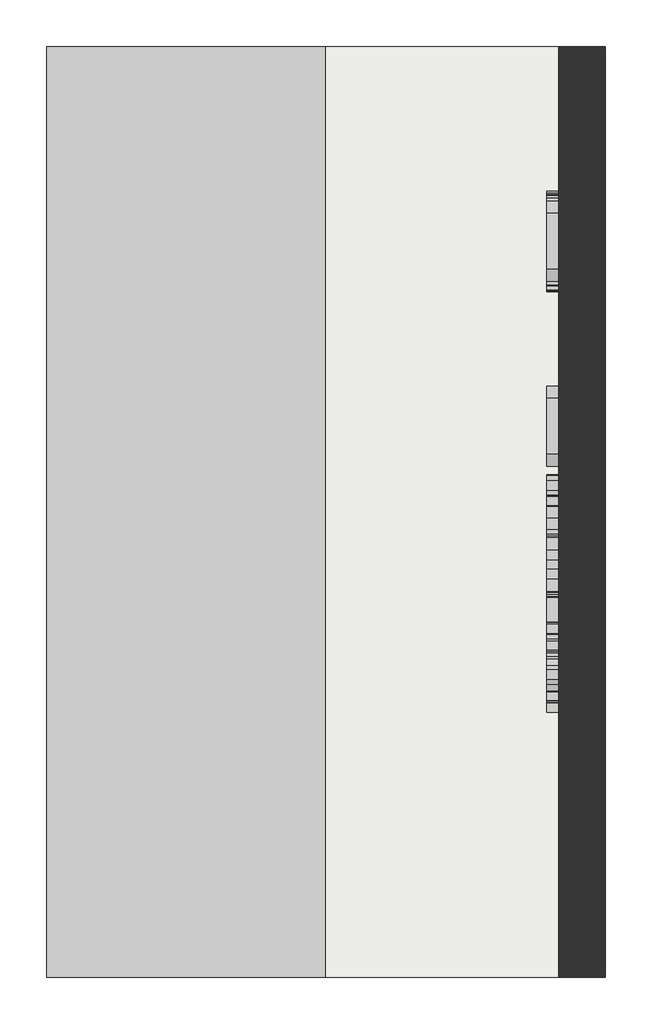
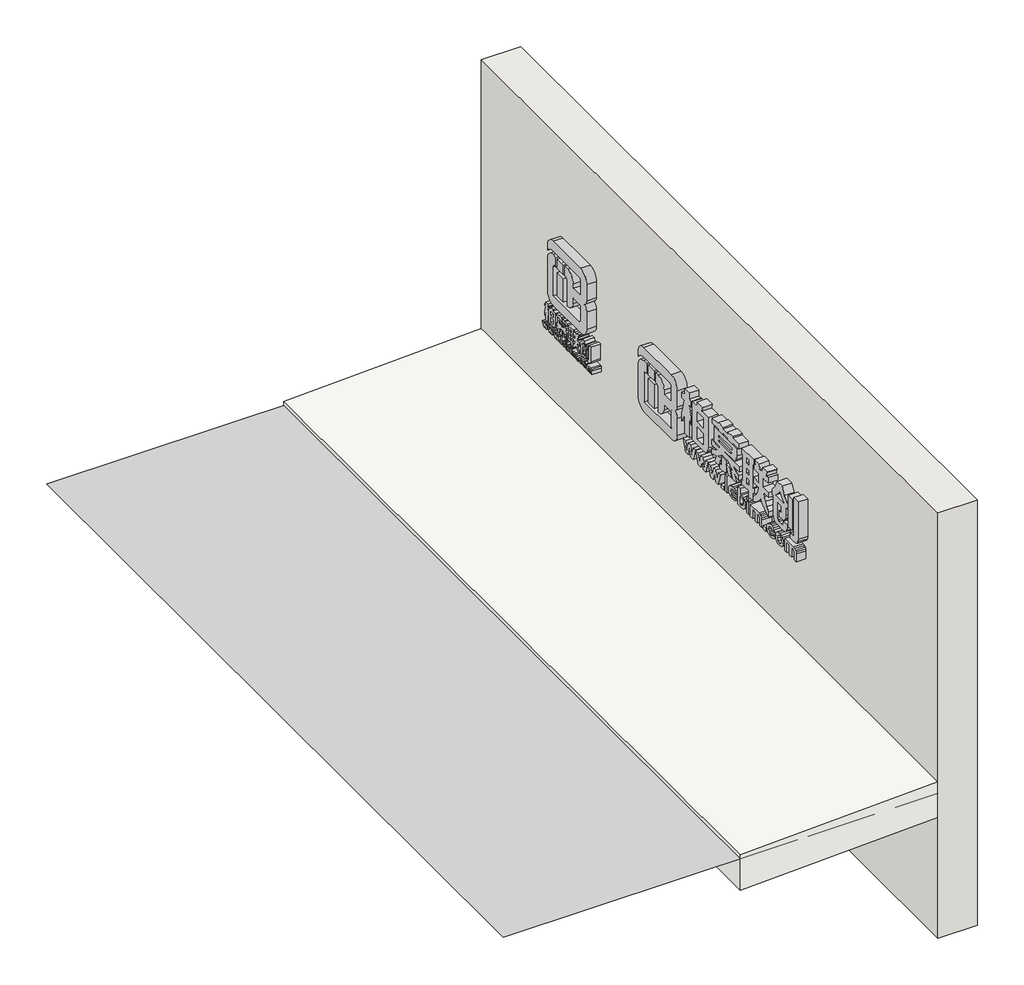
# One storey: 3 proxies, 1 slab, 1 wall.
"""IFC4 building model written with IfcOpenShell, lengths in millimetres."""

from ifc_helpers import new_model, si_unit, frame, origin, place, context, project, spatial, polyline, outline, extrude, triangles, transform, mapped, element, save
from components import generic_models_998ec82f, generic_models_b82000e3

model = new_model("IFC4")

# Units and contexts
model_context = context("Model", 3, world=origin())
ifc_project = project(units=[si_unit("LENGTHUNIT", "METRE", prefix="MILLI")], contexts=[model_context])

# Site, building, storey
site = spatial("IfcSite", under=ifc_project)
building = spatial("IfcBuilding", under=site)
storey = spatial("IfcBuildingStorey", under=building, Name="标高 1", Elevation=0.0)

# Proxies
placement = place(None, origin())
element("IfcBuildingElementProxy", 1, Name="Building Element Proxy", at=placement, inside=storey, context=model_context, shape_type="Tessellation", body=[
    triangles([(-974.9125128, 5499.3236298, 0.0), (-974.9125128, 1499.3237446, 0.0), (-3174.9126022, 5499.3236298, 0.0), (-3174.9126022, 1499.3237446, 0.0)], [[3, 4, 2], [2, 1, 3]], closed=False),
])
generic_models_shape = generic_models_998ec82f(model_context)
element("IfcBuildingElementProxy", 2, Name="柏慕联创LOGO竖向小 : 柏慕联创LOGO竖向小", ObjectType="柏慕联创LOGO竖向小 : 柏慕联创LOGO竖向小", at=placement, inside=storey, context=model_context, shape_type="MappedRepresentation", body=[
    mapped(generic_models_shape, transform((-974.9124879, 4659.3237003, 635.6542927), x_axis=(0.0, -1.0, 0.0), y_axis=(0.0, 0.0, 1.0), z_axis=(-1.0, 0.0, 0.0))),
])
generic_models_2_shape = generic_models_b82000e3(model_context)
element("IfcBuildingElementProxy", 3, Name="柏慕联创LOGO横向小 : 柏慕联创LOGO横向小", ObjectType="柏慕联创LOGO横向小 : 柏慕联创LOGO横向小", at=placement, inside=storey, context=model_context, shape_type="MappedRepresentation", body=[
    mapped(generic_models_2_shape, transform((-974.9124879, 3319.3237003, 727.8306715), x_axis=(0.0, -1.0, 0.0), y_axis=(0.0, 0.0, 1.0), z_axis=(-1.0, 0.0, 0.0))),
])

# Slab
element("IfcSlab", 4, ObjectType="散水", at=placement, inside=storey, context=model_context, shape_type="SweptSolid", body=[
    extrude(outline(polyline([(-130.0, -974.9124879), (60.0, -974.9124879), (20.0, -1974.9124879), (-170.0, -1974.9124879), (-130.0, -974.9124879)])), frame((0.0, 1499.3237003, 0.0), z_axis=(0.0, 1.0, 0.0), x_axis=(0.0, 0.0, 1.0)), (0.0, 0.0, 1.0), 4000.0),
])

# Wall
element("IfcWall", 5, ObjectType="常规 - 200mm", at=placement, inside=storey, context=model_context, shape_type="SweptSolid", body=[
    extrude(outline(polyline([(-974.9124879, 1499.3237003), (-974.9124879, 5499.3237003), (-774.9124879, 5499.3237003), (-774.9124879, 1499.3237003), (-974.9124879, 1499.3237003)])), frame((0.0, 0.0, -776.058949), z_axis=(0.0, 0.0, 1.0), x_axis=(1.0, 0.0, 0.0)), (0.0, 0.0, 1.0), 2276.058949),
])

save(model, "model.ifc")
